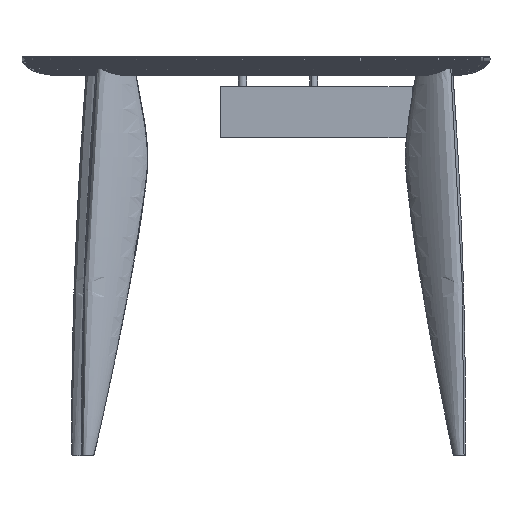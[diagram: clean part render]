
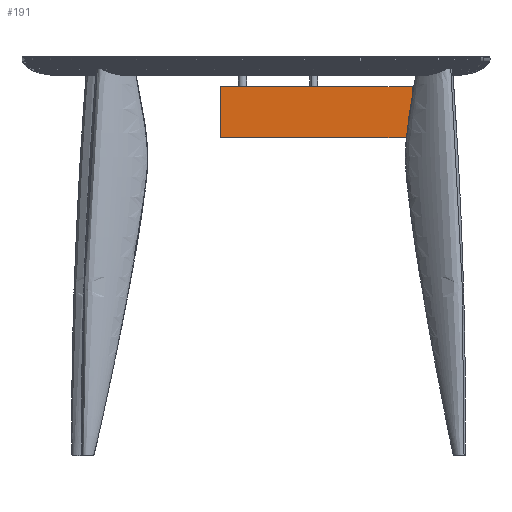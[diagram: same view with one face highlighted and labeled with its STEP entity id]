
A CAD part, left-side view. The second image highlights one B-rep face of the part: STEP entity #191.
In plain terms, the highlighted planar face has unit normal (-1, 0, 0).
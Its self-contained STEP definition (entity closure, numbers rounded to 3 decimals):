
#191=ADVANCED_FACE('',(#477),#3943,.T.);
#477=FACE_OUTER_BOUND('',#769,.T.);
#769=EDGE_LOOP('',(#1455,#1456,#1457,#1458));
#1455=ORIENTED_EDGE('',*,*,#2469,.T.);
#1456=ORIENTED_EDGE('',*,*,#2470,.T.);
#1457=ORIENTED_EDGE('',*,*,#2471,.F.);
#1458=ORIENTED_EDGE('',*,*,#2472,.F.);
#2469=EDGE_CURVE('',#3635,#3636,#3193,.T.);
#2470=EDGE_CURVE('',#3636,#3639,#3194,.T.);
#2471=EDGE_CURVE('',#3640,#3639,#3195,.T.);
#2472=EDGE_CURVE('',#3635,#3640,#3196,.T.);
#3193=B_SPLINE_CURVE_WITH_KNOTS('',1,(#20597,#20598),.UNSPECIFIED.,.F.,
 .F.,(2,2),(-406.,-394.),.UNSPECIFIED.);
#3194=B_SPLINE_CURVE_WITH_KNOTS('',1,(#20599,#20600),.UNSPECIFIED.,.F.,
 .F.,(2,2),(0.,330.),.UNSPECIFIED.);
#3195=B_SPLINE_CURVE_WITH_KNOTS('',1,(#20601,#20602),.UNSPECIFIED.,.F.,
 .F.,(2,2),(-406.,-394.),.UNSPECIFIED.);
#3196=B_SPLINE_CURVE_WITH_KNOTS('',1,(#20603,#20604),.UNSPECIFIED.,.F.,
 .F.,(2,2),(0.,330.),.UNSPECIFIED.);
#3635=VERTEX_POINT('',#20547);
#3636=VERTEX_POINT('',#20548);
#3639=VERTEX_POINT('',#20551);
#3640=VERTEX_POINT('',#20552);
#3943=PLANE('',#4292);
#4292=AXIS2_PLACEMENT_3D('',#20506,#4394,$);
#4394=DIRECTION('',(-1.,0.,0.));
#20506=CARTESIAN_POINT('',(164.502,-285.365,581.001));
#20547=CARTESIAN_POINT('',(164.502,-285.365,581.001));
#20548=CARTESIAN_POINT('',(164.502,-285.365,675.001));
#20551=CARTESIAN_POINT('',(164.502,64.635,675.001));
#20552=CARTESIAN_POINT('',(164.502,64.635,581.001));
#20597=CARTESIAN_POINT('',(164.502,-285.365,581.001));
#20598=CARTESIAN_POINT('',(164.502,-285.365,675.001));
#20599=CARTESIAN_POINT('',(164.502,-285.365,675.001));
#20600=CARTESIAN_POINT('',(164.502,64.635,675.001));
#20601=CARTESIAN_POINT('',(164.502,64.635,581.001));
#20602=CARTESIAN_POINT('',(164.502,64.635,675.001));
#20603=CARTESIAN_POINT('',(164.502,-285.365,581.001));
#20604=CARTESIAN_POINT('',(164.502,64.635,581.001));
